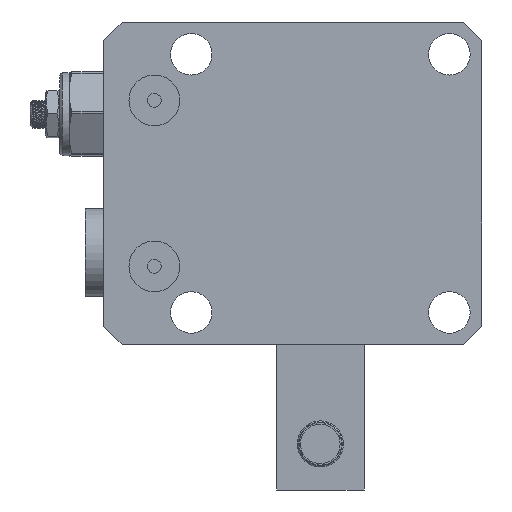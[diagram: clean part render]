
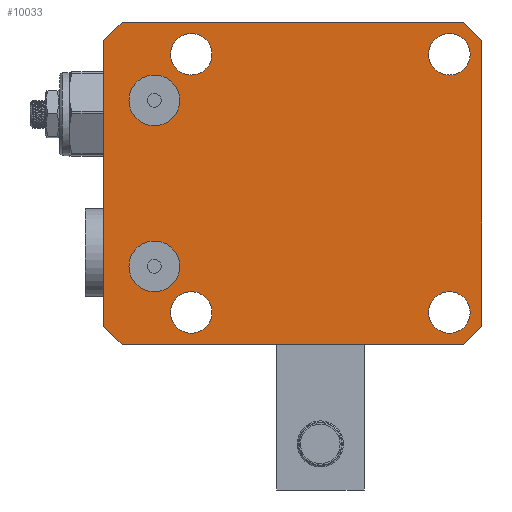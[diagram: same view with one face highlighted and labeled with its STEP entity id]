
A CAD part, front view. The second image highlights one B-rep face of the part: STEP entity #10033.
In plain terms, the highlighted planar face has unit normal (0, -1, 0).
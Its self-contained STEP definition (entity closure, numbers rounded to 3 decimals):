
#585=FACE_BOUND('',#1614,.T.);
#586=FACE_BOUND('',#1615,.T.);
#587=FACE_BOUND('',#1616,.T.);
#588=FACE_BOUND('',#1617,.T.);
#589=FACE_BOUND('',#1618,.T.);
#590=FACE_BOUND('',#1619,.T.);
#659=PLANE('',#11067);
#1008=FACE_OUTER_BOUND('',#1613,.T.);
#1613=EDGE_LOOP('',(#6783,#6784,#6785,#6786,#6787,#6788,#6789,#6790));
#1614=EDGE_LOOP('',(#6791));
#1615=EDGE_LOOP('',(#6792));
#1616=EDGE_LOOP('',(#6793));
#1617=EDGE_LOOP('',(#6794));
#1618=EDGE_LOOP('',(#6795));
#1619=EDGE_LOOP('',(#6796));
#2282=LINE('',#15116,#2939);
#2301=LINE('',#15161,#2958);
#2302=LINE('',#15165,#2959);
#2303=LINE('',#15166,#2960);
#2304=LINE('',#15168,#2961);
#2305=LINE('',#15170,#2962);
#2306=LINE('',#15172,#2963);
#2307=LINE('',#15173,#2964);
#2939=VECTOR('',#12242,1000.);
#2958=VECTOR('',#12281,1000.);
#2959=VECTOR('',#12284,1000.);
#2960=VECTOR('',#12285,1000.);
#2961=VECTOR('',#12286,1000.);
#2962=VECTOR('',#12287,1000.);
#2963=VECTOR('',#12288,1000.);
#2964=VECTOR('',#12289,1000.);
#3573=CIRCLE('',#11011,4.5);
#3575=CIRCLE('',#11014,4.5);
#3577=CIRCLE('',#11017,4.5);
#3579=CIRCLE('',#11020,4.5);
#3582=CIRCLE('',#11024,5.5);
#3584=CIRCLE('',#11027,5.5);
#4100=VERTEX_POINT('',#15007);
#4102=VERTEX_POINT('',#15013);
#4104=VERTEX_POINT('',#15019);
#4106=VERTEX_POINT('',#15025);
#4109=VERTEX_POINT('',#15033);
#4111=VERTEX_POINT('',#15039);
#4138=VERTEX_POINT('',#15113);
#4139=VERTEX_POINT('',#15115);
#4155=VERTEX_POINT('',#15159);
#4156=VERTEX_POINT('',#15163);
#4157=VERTEX_POINT('',#15164);
#4158=VERTEX_POINT('',#15167);
#4159=VERTEX_POINT('',#15169);
#4160=VERTEX_POINT('',#15171);
#5114=EDGE_CURVE('',#4100,#4100,#3573,.T.);
#5117=EDGE_CURVE('',#4102,#4102,#3575,.T.);
#5120=EDGE_CURVE('',#4104,#4104,#3577,.T.);
#5123=EDGE_CURVE('',#4106,#4106,#3579,.T.);
#5128=EDGE_CURVE('',#4109,#4109,#3582,.T.);
#5131=EDGE_CURVE('',#4111,#4111,#3584,.T.);
#5166=EDGE_CURVE('',#4139,#4138,#2282,.T.);
#5189=EDGE_CURVE('',#4138,#4155,#2301,.T.);
#5190=EDGE_CURVE('',#4156,#4157,#2302,.T.);
#5191=EDGE_CURVE('',#4157,#4139,#2303,.T.);
#5192=EDGE_CURVE('',#4155,#4158,#2304,.T.);
#5193=EDGE_CURVE('',#4158,#4159,#2305,.T.);
#5194=EDGE_CURVE('',#4159,#4160,#2306,.T.);
#5195=EDGE_CURVE('',#4160,#4156,#2307,.T.);
#6783=ORIENTED_EDGE('',*,*,#5190,.T.);
#6784=ORIENTED_EDGE('',*,*,#5191,.T.);
#6785=ORIENTED_EDGE('',*,*,#5166,.T.);
#6786=ORIENTED_EDGE('',*,*,#5189,.T.);
#6787=ORIENTED_EDGE('',*,*,#5192,.T.);
#6788=ORIENTED_EDGE('',*,*,#5193,.T.);
#6789=ORIENTED_EDGE('',*,*,#5194,.T.);
#6790=ORIENTED_EDGE('',*,*,#5195,.T.);
#6791=ORIENTED_EDGE('',*,*,#5120,.T.);
#6792=ORIENTED_EDGE('',*,*,#5117,.T.);
#6793=ORIENTED_EDGE('',*,*,#5123,.T.);
#6794=ORIENTED_EDGE('',*,*,#5114,.T.);
#6795=ORIENTED_EDGE('',*,*,#5128,.T.);
#6796=ORIENTED_EDGE('',*,*,#5131,.T.);
#10033=ADVANCED_FACE('',(#1008,#585,#586,#587,#588,#589,#590),#659,.T.);
#11011=AXIS2_PLACEMENT_3D('',#15008,#12127,#12128);
#11014=AXIS2_PLACEMENT_3D('',#15014,#12134,#12135);
#11017=AXIS2_PLACEMENT_3D('',#15020,#12141,#12142);
#11020=AXIS2_PLACEMENT_3D('',#15026,#12148,#12149);
#11024=AXIS2_PLACEMENT_3D('',#15035,#12158,#12159);
#11027=AXIS2_PLACEMENT_3D('',#15041,#12165,#12166);
#11067=AXIS2_PLACEMENT_3D('',#15162,#12282,#12283);
#12127=DIRECTION('center_axis',(0.,1.,0.));
#12128=DIRECTION('ref_axis',(0.,0.,1.));
#12134=DIRECTION('center_axis',(0.,1.,0.));
#12135=DIRECTION('ref_axis',(0.,0.,1.));
#12141=DIRECTION('center_axis',(0.,1.,0.));
#12142=DIRECTION('ref_axis',(0.,0.,1.));
#12148=DIRECTION('center_axis',(0.,1.,0.));
#12149=DIRECTION('ref_axis',(0.,0.,1.));
#12158=DIRECTION('center_axis',(0.,1.,0.));
#12159=DIRECTION('ref_axis',(0.,0.,-1.));
#12165=DIRECTION('center_axis',(0.,1.,0.));
#12166=DIRECTION('ref_axis',(0.,0.,-1.));
#12242=DIRECTION('',(-1.,0.,0.));
#12281=DIRECTION('',(-0.707,0.,-0.707));
#12282=DIRECTION('center_axis',(0.,-1.,0.));
#12283=DIRECTION('ref_axis',(0.,0.,-1.));
#12284=DIRECTION('',(0.,0.,1.));
#12285=DIRECTION('',(-0.707,0.,0.707));
#12286=DIRECTION('',(0.,0.,-1.));
#12287=DIRECTION('',(0.707,0.,-0.707));
#12288=DIRECTION('',(1.,0.,0.));
#12289=DIRECTION('',(0.707,0.,0.707));
#15007=CARTESIAN_POINT('',(28.,4.541,23.5));
#15008=CARTESIAN_POINT('Origin',(28.,4.541,28.));
#15013=CARTESIAN_POINT('',(-28.,4.541,23.5));
#15014=CARTESIAN_POINT('Origin',(-28.,4.541,28.));
#15019=CARTESIAN_POINT('',(28.,4.541,-32.5));
#15020=CARTESIAN_POINT('Origin',(28.,4.541,-28.));
#15025=CARTESIAN_POINT('',(-28.,4.541,-32.5));
#15026=CARTESIAN_POINT('Origin',(-28.,4.541,-28.));
#15033=CARTESIAN_POINT('',(36.,4.541,-12.5));
#15035=CARTESIAN_POINT('Origin',(36.,4.541,-18.));
#15039=CARTESIAN_POINT('',(36.,4.541,23.5));
#15041=CARTESIAN_POINT('Origin',(36.,4.541,18.));
#15113=CARTESIAN_POINT('',(-31.,4.541,35.));
#15115=CARTESIAN_POINT('',(43.,4.541,35.));
#15116=CARTESIAN_POINT('',(43.,4.541,35.));
#15159=CARTESIAN_POINT('',(-35.,4.541,31.));
#15161=CARTESIAN_POINT('',(-31.,4.541,35.));
#15162=CARTESIAN_POINT('Origin',(-35.,4.541,35.));
#15163=CARTESIAN_POINT('',(47.,4.541,-31.));
#15164=CARTESIAN_POINT('',(47.,4.541,31.));
#15165=CARTESIAN_POINT('',(47.,4.541,35.));
#15166=CARTESIAN_POINT('',(47.,4.541,31.));
#15167=CARTESIAN_POINT('',(-35.,4.541,-31.));
#15168=CARTESIAN_POINT('',(-35.,4.541,35.));
#15169=CARTESIAN_POINT('',(-31.,4.541,-35.));
#15170=CARTESIAN_POINT('',(-35.,4.541,-31.));
#15171=CARTESIAN_POINT('',(43.,4.541,-35.));
#15172=CARTESIAN_POINT('',(-35.,4.541,-35.));
#15173=CARTESIAN_POINT('',(43.,4.541,-35.));
